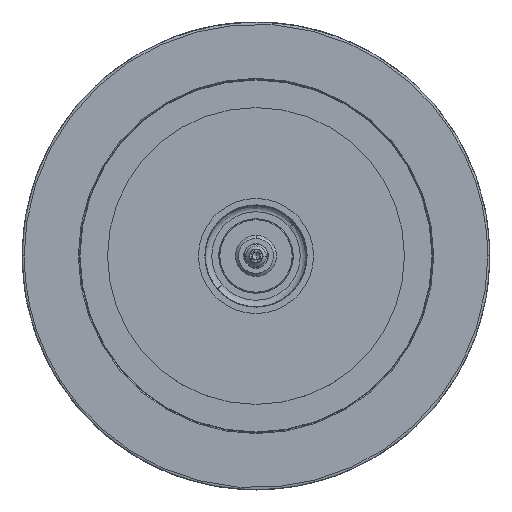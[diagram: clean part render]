
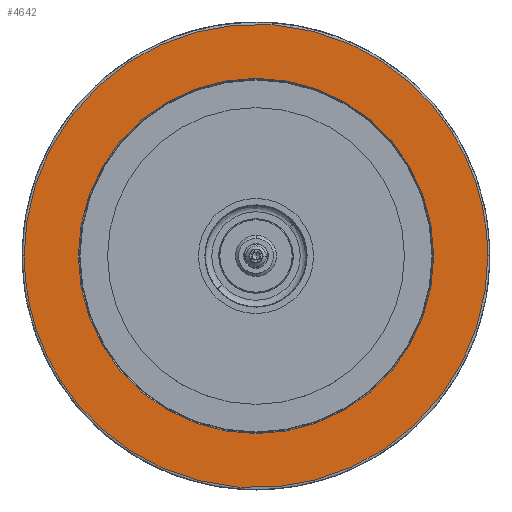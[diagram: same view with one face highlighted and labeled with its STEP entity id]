
A CAD part, top view. The second image highlights one B-rep face of the part: STEP entity #4642.
In plain terms, the highlighted planar face has unit normal (0, 0, 1).
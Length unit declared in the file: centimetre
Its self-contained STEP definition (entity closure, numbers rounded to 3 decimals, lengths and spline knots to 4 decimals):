
#143 = EDGE_CURVE ( 'NONE', #10851, #10801, #5836, .T. ) ;
#324 = EDGE_CURVE ( 'NONE', #11094, #10837, #29358, .T. ) ;
#767 = CARTESIAN_POINT ( 'NONE',  ( 0., 0., 0. ) ) ;
#768 = DIRECTION ( 'NONE',  ( 0., 0., -1. ) ) ;
#769 = DIRECTION ( 'NONE',  ( 1., 0., 0. ) ) ;
#4642 = ADVANCED_FACE ( 'NONE', ( #29631, #29635 ), #28529, .T. ) ;
#5836 = CIRCLE ( 'NONE', #20263, 2.0828 ) ;
#8981 = CARTESIAN_POINT ( 'NONE',  ( -2.0828, 0., 0. ) ) ;
#9016 = CARTESIAN_POINT ( 'NONE',  ( -2.7178, 0., 0. ) ) ;
#9030 = CARTESIAN_POINT ( 'NONE',  ( 2.0828, 0., 0. ) ) ;
#10801 = VERTEX_POINT ( 'NONE', #8981 ) ;
#10837 = VERTEX_POINT ( 'NONE', #9016 ) ;
#10851 = VERTEX_POINT ( 'NONE', #9030 ) ;
#11094 = VERTEX_POINT ( 'NONE', #30755 ) ;
#14102 = AXIS2_PLACEMENT_3D ( 'NONE', #28531, #28532, #28533 ) ;
#14485 = AXIS2_PLACEMENT_3D ( 'NONE', #33180, #33182, #33184 ) ;
#18299 = ORIENTED_EDGE ( 'NONE', *, *, #324, .F. ) ;
#18303 = ORIENTED_EDGE ( 'NONE', *, *, #20050, .F. ) ;
#18305 = ORIENTED_EDGE ( 'NONE', *, *, #143, .T. ) ;
#18307 = ORIENTED_EDGE ( 'NONE', *, *, #20119, .T. ) ;
#20050 = EDGE_CURVE ( 'NONE', #10837, #11094, #41820, .T. ) ;
#20119 = EDGE_CURVE ( 'NONE', #10801, #10851, #30640, .T. ) ;
#20263 = AXIS2_PLACEMENT_3D ( 'NONE', #767, #768, #769 ) ;
#28529 = PLANE ( 'NONE',  #14102 ) ;
#28531 = CARTESIAN_POINT ( 'NONE',  ( 2.0701, 0., 0. ) ) ;
#28532 = DIRECTION ( 'NONE',  ( 0., 0., 1. ) ) ;
#28533 = DIRECTION ( 'NONE',  ( 1., 0., 0. ) ) ;
#29358 =( BOUNDED_CURVE ( )  B_SPLINE_CURVE ( 3, ( #31808, #31799, #31809, #31810 ),
 .UNSPECIFIED., .F., .F. ) 
 B_SPLINE_CURVE_WITH_KNOTS ( ( 4, 4 ),
 ( 0., 0.5 ),
 .UNSPECIFIED. ) 
 CURVE ( )  GEOMETRIC_REPRESENTATION_ITEM ( )  RATIONAL_B_SPLINE_CURVE ( ( 1., 0.333, 0.333, 1. ) ) 
 REPRESENTATION_ITEM ( '' )  );
#29631 = FACE_OUTER_BOUND ( 'NONE', #39352, .T. ) ;
#29635 = FACE_BOUND ( 'NONE', #39637, .T. ) ;
#30640 = CIRCLE ( 'NONE', #14485, 2.0828 ) ;
#30755 = CARTESIAN_POINT ( 'NONE',  ( 2.7178, 0., 0. ) ) ;
#31779 = CARTESIAN_POINT ( 'NONE',  ( -2.7178, 5.4356, 0. ) ) ;
#31783 = CARTESIAN_POINT ( 'NONE',  ( -2.7178, 0., 0. ) ) ;
#31799 = CARTESIAN_POINT ( 'NONE',  ( 2.7178, -5.4356, 0. ) ) ;
#31808 = CARTESIAN_POINT ( 'NONE',  ( 2.7178, 0., 0. ) ) ;
#31809 = CARTESIAN_POINT ( 'NONE',  ( -2.7178, -5.4356, 0. ) ) ;
#31810 = CARTESIAN_POINT ( 'NONE',  ( -2.7178, 0., 0. ) ) ;
#32261 = CARTESIAN_POINT ( 'NONE',  ( 2.7178, 5.4356, 0. ) ) ;
#32263 = CARTESIAN_POINT ( 'NONE',  ( 2.7178, 0., 0. ) ) ;
#33180 = CARTESIAN_POINT ( 'NONE',  ( 0., 0., 0. ) ) ;
#33182 = DIRECTION ( 'NONE',  ( 0., 0., -1. ) ) ;
#33184 = DIRECTION ( 'NONE',  ( 1., 0., 0. ) ) ;
#39352 = EDGE_LOOP ( 'NONE', ( #18299, #18303 ) ) ;
#39637 = EDGE_LOOP ( 'NONE', ( #18305, #18307 ) ) ;
#41820 =( BOUNDED_CURVE ( )  B_SPLINE_CURVE ( 3, ( #31783, #31779, #32261, #32263 ),
 .UNSPECIFIED., .F., .F. ) 
 B_SPLINE_CURVE_WITH_KNOTS ( ( 4, 4 ),
 ( 0.5, 1. ),
 .UNSPECIFIED. ) 
 CURVE ( )  GEOMETRIC_REPRESENTATION_ITEM ( )  RATIONAL_B_SPLINE_CURVE ( ( 1., 0.333, 0.333, 1. ) ) 
 REPRESENTATION_ITEM ( '' )  );
